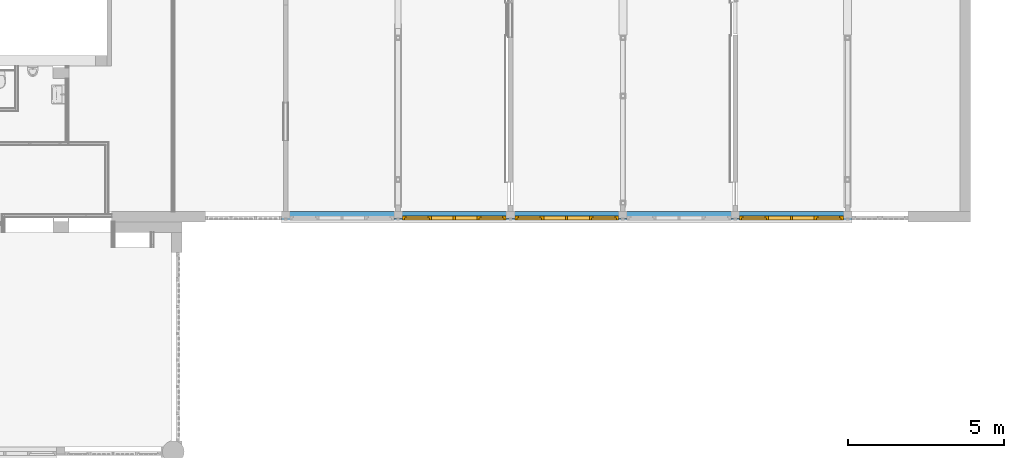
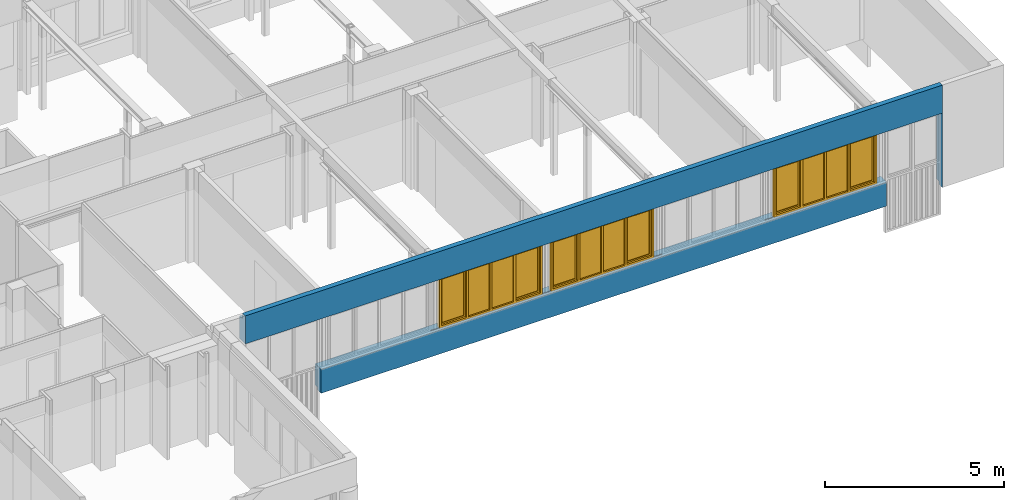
# One storey, part 33 of 99: 3 windows, 1 wall, 7 openings.
"""IFC2X3 building model written with IfcOpenShell, lengths in millimetres."""

from ifc_helpers import new_model, entity, si_unit, converted_unit, derived_unit, money_unit, direction, frame, origin_with_axes, place, context, subcontext, project, spatial, open_shell, faceted_brep, surface_model, source, transform, mapped, material, type_object, type_shapes, element, fill, save


model = new_model("IFC2X3")

# Units and contexts
model_context = context("Model", 3, precision=0.01, world=origin_with_axes(), true_north=direction((0.0, 1.0)))
body_context = subcontext(model_context, "Body", "Model", "MODEL_VIEW")
ifc_project = project(units=[si_unit("LENGTHUNIT", "METRE", prefix="MILLI"), si_unit("AREAUNIT", "SQUARE_METRE"), si_unit("VOLUMEUNIT", "CUBIC_METRE"), converted_unit("PLANEANGLEUNIT", "DEGREE", entity("IfcPlaneAngleMeasure", 0.0174532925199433), si_unit("PLANEANGLEUNIT", "RADIAN"), dimensions=[0, 0, 0, 0, 0, 0, 0]), money_unit("EUR"), converted_unit("TIMEUNIT", "Year", entity("IfcTimeMeasure", 31557600.0), si_unit("TIMEUNIT", "SECOND"), dimensions=[0, 0, 1, 0, 0, 0, 0]), si_unit("MASSUNIT", "GRAM", prefix="KILO"), si_unit("THERMODYNAMICTEMPERATUREUNIT", "DEGREE_CELSIUS"), si_unit("LUMINOUSINTENSITYUNIT", "LUMEN"), si_unit("ENERGYUNIT", "JOULE", prefix="MEGA"), derived_unit("THERMALCONDUCTANCEUNIT", [(si_unit("POWERUNIT", "WATT"), 1), (si_unit("LENGTHUNIT", "METRE"), -1), (si_unit("THERMODYNAMICTEMPERATUREUNIT", "KELVIN"), -1)]), derived_unit("SPECIFICHEATCAPACITYUNIT", [(si_unit("ENERGYUNIT", "JOULE"), 1), (si_unit("MASSUNIT", "GRAM", prefix="KILO"), -1), (si_unit("THERMODYNAMICTEMPERATUREUNIT", "KELVIN"), -1)]), derived_unit("MASSDENSITYUNIT", [(si_unit("MASSUNIT", "GRAM", prefix="KILO"), 1), (si_unit("VOLUMEUNIT", "CUBIC_METRE"), -1)])], contexts=[model_context])

# Site, building, storey
site_placement = place(None, origin_with_axes())
site = spatial("IfcSite", under=ifc_project, at=site_placement, Name="Site", CompositionType="ELEMENT")
building_placement = place(site_placement, origin_with_axes())
building = spatial("IfcBuilding", under=site, at=building_placement, Name="Naam gebouw", CompositionType="ELEMENT")
storey_placement = place(building_placement, frame((0.0, 0.0, 7650.0), z_axis=(0.0, 0.0, 1.0), x_axis=(1.0, 0.0, 0.0)))
storey = spatial("IfcBuildingStorey", under=building, at=storey_placement, Name="2e verdieping N", CompositionType="ELEMENT", Elevation=7650.0)

# Wall, openings, windows
ifc_material = material(Name="ALG - CONSTRUCTIEF")
wall_type = type_object("IfcWallType", Name="ALG - CONSTRUCTIEF 330", PredefinedType="NOTDEFINED")
wall_placement = place(storey_placement, frame((55938.1567191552, 10990.91242510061, -99.99999999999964), z_axis=(0.0, 0.0, 1.0), x_axis=(-1.0, 0.0, 0.0)))
wall = element("IfcWall", 1, at=wall_placement, inside=storey, type_object=wall_type, material=ifc_material, Name="_Wand-x", context=body_context, shape_type="Brep", body=[
    faceted_brep([(22515.6567191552, 0.0, 2540.000000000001), (22515.6567191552, 329.9999999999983, 2540.000000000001), (22515.6567191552, 329.9999999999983, 3500.0), (22515.6567191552, 168.1794439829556, 3500.0), (22515.6567191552, 168.1794439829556, 3299.999999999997), (22515.6567191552, 0.0, 3299.999999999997), (0.6567191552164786, 0.0, 2540.000000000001), (0.6567191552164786, 330.0000000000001, 2540.000000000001), (20075.65671915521, 329.9999999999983, 2540.000000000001), (2075.656719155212, 260.0000000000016, 2540.000000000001), (1800.656719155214, 259.9999999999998, 2540.000000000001), (1800.656719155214, 216.0000000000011, 2540.000000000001), (2075.656719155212, 216.0000000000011, 2540.000000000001), (9275.656719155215, 215.9999999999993, 2540.000000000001), (9275.656719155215, 259.9999999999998, 2540.000000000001), (9000.65671915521, 259.999999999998, 2540.000000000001), (9000.65671915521, 215.9999999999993, 2540.000000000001), (5675.656719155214, 216.0000000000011, 2540.000000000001), (5675.656719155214, 259.9999999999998, 2540.000000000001), (5400.656719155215, 259.9999999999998, 2540.000000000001), (5400.656719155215, 216.0000000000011, 2540.000000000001), (12875.6567191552, 259.9999999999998, 2540.000000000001), (12600.6567191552, 259.999999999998, 2540.000000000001), (12600.6567191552, 215.9999999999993, 2540.000000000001), (12875.6567191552, 215.9999999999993, 2540.000000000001), (16475.6567191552, 215.9999999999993, 2540.000000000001), (16475.6567191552, 259.9999999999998, 2540.000000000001), (16200.65671915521, 259.999999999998, 2540.000000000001), (16200.65671915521, 215.9999999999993, 2540.000000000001), (20075.65671915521, 259.9999999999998, 2540.000000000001), (19800.65671915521, 259.999999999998, 2540.000000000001), (19800.65671915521, 215.9999999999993, 2540.000000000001), (20075.65671915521, 215.9999999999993, 2540.000000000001), (0.6567191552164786, 330.0000000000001, 0.0), (0.0, 330.0000000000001, 0.0), (0.0, 330.0000000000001, 3500.0), (0.0, 168.1794439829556, 3500.0), (0.0, 168.1794439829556, 3299.999999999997), (0.0, 0.0, 3299.999999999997), (0.0, 0.0, 99.99999999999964), (0.6567191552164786, 0.0, 99.99999999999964), (0.6567191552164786, 146.0000000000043, 99.99999999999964), (0.6567191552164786, 146.0000000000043, 0.0), (0.0, 146.0000000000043, 0.0), (0.0, 146.0000000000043, 99.99999999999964)], [[[0, 1, 2, 3, 4, 5]], [[1, 0, 6, 7, 8], [9, 10, 11, 12], [13, 14, 15, 16], [17, 18, 19, 20], [21, 22, 23, 24], [25, 26, 27, 28], [29, 30, 31, 32]], [[1, 8, 7, 33, 34, 35, 2]], [[3, 2, 35, 36]], [[4, 3, 36, 37]], [[5, 4, 37, 38]], [[6, 0, 5, 38, 39, 40]], [[33, 7, 6, 40, 41, 42]], [[10, 9, 12, 11]], [[14, 13, 16, 15]], [[18, 17, 20, 19]], [[22, 21, 24, 23]], [[26, 25, 28, 27]], [[30, 29, 32, 31]], [[34, 33, 42, 43]], [[35, 34, 43, 44, 39, 38, 37, 36]], [[40, 39, 44, 41]], [[42, 41, 44, 43]]]),
    faceted_brep([(20075.65671915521, 259.9999999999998, 820.0000000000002), (19800.65671915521, 259.999999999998, 820.0000000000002), (19800.65671915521, 215.9999999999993, 820.0000000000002), (20075.65671915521, 215.9999999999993, 820.0000000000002), (20075.65671915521, 329.9999999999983, 820.0000000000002), (1800.656719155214, 330.0000000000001, 820.0000000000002), (1800.656719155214, 259.9999999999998, 820.0000000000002), (2075.656719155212, 260.0000000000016, 820.0000000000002), (2075.656719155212, 216.0000000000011, 820.0000000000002), (1800.656719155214, 216.0000000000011, 820.0000000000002), (1800.656719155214, 0.0, 820.0000000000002), (20075.65671915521, 0.0, 820.0000000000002), (20075.65671915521, 145.999999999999, 820.0000000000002), (9000.65671915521, 259.999999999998, 820.0000000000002), (9275.656719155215, 259.9999999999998, 820.0000000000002), (9275.656719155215, 215.9999999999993, 820.0000000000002), (9000.65671915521, 215.9999999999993, 820.0000000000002), (5400.656719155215, 259.9999999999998, 820.0000000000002), (5675.656719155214, 259.9999999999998, 820.0000000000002), (5675.656719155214, 216.0000000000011, 820.0000000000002), (5400.656719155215, 216.0000000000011, 820.0000000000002), (12600.6567191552, 259.999999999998, 820.0000000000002), (12875.6567191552, 259.9999999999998, 820.0000000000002), (12875.6567191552, 215.9999999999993, 820.0000000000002), (12600.6567191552, 215.9999999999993, 820.0000000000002), (16475.6567191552, 259.9999999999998, 820.0000000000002), (16475.6567191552, 215.9999999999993, 820.0000000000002), (16200.65671915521, 215.9999999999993, 820.0000000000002), (16200.65671915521, 259.999999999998, 820.0000000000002), (20075.65671915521, 146.0000000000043, 0.0), (20075.65671915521, 329.9999999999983, 0.0), (20075.65671915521, 146.0000000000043, 99.99999999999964), (1800.656719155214, 330.0000000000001, 0.0), (1800.656719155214, 146.0000000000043, 0.0), (1800.656719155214, 146.0000000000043, 99.99999999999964), (1800.656719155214, 0.0, 99.99999999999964), (20075.65671915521, 0.0, 99.99999999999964)], [[[0, 1, 2, 3]], [[0, 4, 5, 6, 7, 8, 9, 10, 11, 12, 3, 2, 1], [13, 14, 15, 16], [17, 18, 19, 20], [21, 22, 23, 24], [25, 26, 27, 28]], [[29, 30, 4, 0, 3, 12, 31]], [[4, 30, 32, 5]], [[6, 5, 32, 33, 34, 35, 10, 9]], [[7, 6, 9, 8]], [[36, 11, 10, 35]], [[31, 12, 11, 36]], [[14, 13, 16, 15]], [[18, 17, 20, 19]], [[22, 21, 24, 23]], [[26, 25, 28, 27]], [[30, 29, 33, 32]], [[29, 31, 34, 33]], [[31, 36, 35, 34]]]),
])
opening_1_placement = place(wall_placement, frame((3738.156719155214, 0.0, 820.0000000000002), z_axis=(0.0, 0.0, 1.0), x_axis=(1.0, 0.0, 0.0)))
opening_1 = element("IfcOpeningElement", 2, at=opening_1_placement, cuts=wall, Name="_Merk-052", context=body_context, shape_type="Brep", body=[
    faceted_brep([(-1937.5, 260.0000000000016, 0.0), (-1937.5, 260.0000000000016, 1720.000000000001), (-1937.5, 331.0000000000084, 1720.000000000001), (-1937.5, 331.0000000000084, 0.0), (-1937.5, -0.9999999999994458, 0.0), (-1937.5, -0.9999999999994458, 1720.000000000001), (1937.5, 259.9999999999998, 1720.000000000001), (1937.5, 331.0000000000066, 1720.000000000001), (1937.5, -1.000000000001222, 1720.000000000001), (1937.5, 331.0000000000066, 0.0), (1937.5, 259.9999999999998, 0.0), (1937.5, -1.000000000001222, 0.0)], [[[0, 1, 2, 3]], [[1, 0, 4, 5]], [[6, 7, 2, 1, 5, 8]], [[7, 9, 3, 2]], [[0, 3, 9, 10, 11, 4]], [[5, 4, 11, 8]], [[6, 10, 9, 7]], [[10, 6, 8, 11]]]),
])
opening_2_placement = place(wall_placement, frame((7338.156719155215, 0.0, 820.0000000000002), z_axis=(0.0, 0.0, 1.0), x_axis=(1.0, 0.0, 0.0)))
element("IfcOpeningElement", 3, at=opening_2_placement, cuts=wall, Name="_Merk-052", context=body_context, shape_type="Brep", body=[
    faceted_brep([(-1937.5, 259.9999999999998, 0.0), (-1937.5, 259.9999999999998, 1720.000000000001), (-1937.5, 331.0000000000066, 1720.000000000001), (-1937.5, 331.0000000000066, 0.0), (-1937.5, -1.000000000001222, 0.0), (-1937.5, -1.000000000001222, 1720.000000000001), (1937.5, 259.999999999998, 1720.000000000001), (1937.5, 331.0000000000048, 1720.000000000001), (1937.5, -1.000000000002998, 1720.000000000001), (1937.5, 331.0000000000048, 0.0), (1937.5, 259.999999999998, 0.0), (1937.5, -1.000000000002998, 0.0)], [[[0, 1, 2, 3]], [[1, 0, 4, 5]], [[6, 7, 2, 1, 5, 8]], [[7, 9, 3, 2]], [[0, 3, 9, 10, 11, 4]], [[5, 4, 11, 8]], [[6, 10, 9, 7]], [[10, 6, 8, 11]]]),
])
opening_3_placement = place(wall_placement, frame((10938.1567191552, 0.0, 820.0000000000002), z_axis=(0.0, 0.0, 1.0), x_axis=(1.0, 0.0, 0.0)))
opening_3 = element("IfcOpeningElement", 4, at=opening_3_placement, cuts=wall, Name="_Merk-052", context=body_context, shape_type="Brep", body=[
    faceted_brep([(-1937.5, 259.9999999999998, 0.0), (-1937.5, 259.9999999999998, 1720.000000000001), (-1937.5, 331.0000000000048, 1720.000000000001), (-1937.5, 331.0000000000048, 0.0), (-1937.5, -1.000000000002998, 0.0), (-1937.5, -1.000000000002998, 1720.000000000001), (1937.5, 259.999999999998, 1720.000000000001), (1937.5, 331.0000000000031, 1720.000000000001), (1937.5, -1.000000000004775, 1720.000000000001), (1937.5, 331.0000000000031, 0.0), (1937.5, 259.999999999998, 0.0), (1937.5, -1.000000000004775, 0.0)], [[[0, 1, 2, 3]], [[1, 0, 4, 5]], [[6, 7, 2, 1, 5, 8]], [[7, 9, 3, 2]], [[0, 3, 9, 10, 11, 4]], [[5, 4, 11, 8]], [[6, 10, 9, 7]], [[10, 6, 8, 11]]]),
])
opening_4_placement = place(wall_placement, frame((14538.1567191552, 0.0, 820.0000000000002), z_axis=(0.0, 0.0, 1.0), x_axis=(1.0, 0.0, 0.0)))
opening_4 = element("IfcOpeningElement", 5, at=opening_4_placement, cuts=wall, Name="_Merk-052", context=body_context, shape_type="Brep", body=[
    faceted_brep([(-1937.5, 259.9999999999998, 0.0), (-1937.5, 259.9999999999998, 1720.000000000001), (-1937.5, 331.0000000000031, 1720.000000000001), (-1937.5, 331.0000000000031, 0.0), (-1937.5, -1.000000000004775, 0.0), (-1937.5, -1.000000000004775, 1720.000000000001), (1937.5, 259.999999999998, 1720.000000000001), (1937.5, 331.0000000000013, 1720.000000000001), (1937.5, -1.000000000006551, 1720.000000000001), (1937.5, 331.0000000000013, 0.0), (1937.5, 259.999999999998, 0.0), (1937.5, -1.000000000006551, 0.0)], [[[0, 1, 2, 3]], [[1, 0, 4, 5]], [[6, 7, 2, 1, 5, 8]], [[7, 9, 3, 2]], [[0, 3, 9, 10, 11, 4]], [[5, 4, 11, 8]], [[6, 10, 9, 7]], [[10, 6, 8, 11]]]),
])
opening_5_placement = place(wall_placement, frame((18138.15671915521, 0.0, 820.0000000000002), z_axis=(0.0, 0.0, 1.0), x_axis=(1.0, 0.0, 0.0)))
element("IfcOpeningElement", 6, at=opening_5_placement, cuts=wall, Name="_Merk-052", context=body_context, shape_type="Brep", body=[
    faceted_brep([(-1937.5, 259.9999999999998, 0.0), (-1937.5, 259.9999999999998, 1720.000000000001), (-1937.5, 331.0000000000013, 1720.000000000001), (-1937.5, 331.0000000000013, 0.0), (-1937.5, -1.000000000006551, 0.0), (-1937.5, -1.000000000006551, 1720.000000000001), (1937.5, 259.999999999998, 1720.000000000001), (1937.5, 330.9999999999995, 1720.000000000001), (1937.5, -1.000000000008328, 1720.000000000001), (1937.5, 330.9999999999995, 0.0), (1937.5, 259.999999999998, 0.0), (1937.5, -1.000000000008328, 0.0)], [[[0, 1, 2, 3]], [[1, 0, 4, 5]], [[6, 7, 2, 1, 5, 8]], [[7, 9, 3, 2]], [[0, 3, 9, 10, 11, 4]], [[5, 4, 11, 8]], [[6, 10, 9, 7]], [[10, 6, 8, 11]]]),
])
opening_6_placement = place(wall_placement, frame((21295.6567191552, 0.0, -959.9999999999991), z_axis=(0.0, 0.0, 1.0), x_axis=(1.0, 0.0, 0.0)))
element("IfcOpeningElement", 7, at=opening_6_placement, cuts=wall, Name="_Merk-055", context=body_context, shape_type="Brep", body=[
    faceted_brep([(-1219.999999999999, 259.9999999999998, -1060.0), (-1219.999999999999, 259.9999999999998, 3500.0), (-1219.999999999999, 331.0000000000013, 3500.0), (-1219.999999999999, 331.0000000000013, -1060.0), (-1219.999999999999, -1.000000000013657, -1060.0), (-1219.999999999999, -1.000000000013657, 3500.0), (1219.999999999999, 259.999999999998, 3500.0), (1219.999999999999, 330.9999999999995, 3500.0), (1219.999999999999, -1.000000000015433, 3500.0), (1219.999999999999, 330.9999999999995, -1060.0), (1219.999999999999, 259.999999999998, -1060.0), (1219.999999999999, -1.000000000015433, -1060.0)], [[[0, 1, 2, 3]], [[1, 0, 4, 5]], [[6, 7, 2, 1, 5, 8]], [[7, 9, 3, 2]], [[0, 3, 9, 10, 11, 4]], [[5, 4, 11, 8]], [[6, 10, 9, 7]], [[10, 6, 8, 11]]]),
])
opening_7_placement = place(wall_placement, frame((900.6567191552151, 0.0, -960.0000000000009), z_axis=(0.0, 0.0, 1.0), x_axis=(1.0, 0.0, 0.0)))
element("IfcOpeningElement", 8, at=opening_7_placement, cuts=wall, Name="_Merk-051", context=body_context, shape_type="Brep", body=[
    faceted_brep([(-899.9999999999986, 260.0000000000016, -1060.0), (-899.9999999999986, 260.0000000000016, 3500.000000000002), (-899.9999999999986, 331.0000000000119, 3500.000000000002), (-899.9999999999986, 331.0000000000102, -1060.0), (-899.9999999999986, -0.9999999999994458, -1060.0), (-899.9999999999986, -0.9999999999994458, 3500.000000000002), (899.9999999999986, 259.9999999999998, 3500.000000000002), (899.9999999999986, 331.0000000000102, 3500.000000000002), (899.9999999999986, -1.000000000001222, 3500.000000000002), (899.9999999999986, 331.0000000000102, -1060.0), (899.9999999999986, 259.9999999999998, -1060.0), (899.9999999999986, -1.000000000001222, -1060.0)], [[[0, 1, 2, 3]], [[1, 0, 4, 5]], [[6, 7, 2, 1, 5, 8]], [[7, 9, 3, 2]], [[0, 3, 9, 10, 11, 4]], [[5, 4, 11, 8]], [[6, 10, 9, 7]], [[10, 6, 8, 11]]]),
])
window_style = type_object("IfcWindowStyle", Name="Rnx horizontaal 26", ConstructionType="NOTDEFINED", OperationType="USERDEFINED", ParameterTakesPrecedence=False, Sizeable=False)
shared_shape = source(origin_with_axes(), body_context, "Body", "SurfaceModel", [
    faceted_brep([(1612.5, 0.0, 1653.0), (1612.5, -54.0000000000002, 1653.0), (1595.5, -54.00000000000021, 1653.0), (1595.5, -114.0000000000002, 1653.0), (1662.5, -114.0000000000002, 1653.0), (1662.5, 0.0, 1653.0), (1612.5, 0.0, 66.99999999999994), (1612.5, -54.00000000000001, 66.99999999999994), (1595.5, -54.00000000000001, 66.99999999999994), (1595.5, -114.0, 66.99999999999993), (1662.5, -114.0, 66.99999999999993), (1662.5, 0.0, 66.99999999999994)], [[[0, 1, 2, 3, 4, 5]], [[1, 0, 6, 7]], [[8, 2, 1, 7]], [[2, 8, 9, 3]], [[4, 3, 9, 10]], [[5, 4, 10, 11]], [[6, 0, 5, 11]], [[7, 6, 11, 10, 9, 8]]]),
    faceted_brep([(-1595.5, -54.00000000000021, 1653.0), (-1612.5, -54.0000000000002, 1653.0), (-1612.5, 0.0, 1653.0), (-1662.5, 0.0, 1653.0), (-1662.5, -114.0000000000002, 1653.0), (-1595.5, -114.0000000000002, 1653.0), (-1595.5, -54.00000000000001, 66.99999999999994), (-1612.5, -54.00000000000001, 66.99999999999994), (-1612.5, 0.0, 66.99999999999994), (-1662.5, 0.0, 66.99999999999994), (-1662.5, -114.0, 66.99999999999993), (-1595.5, -114.0, 66.99999999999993)], [[[0, 1, 2, 3, 4, 5]], [[1, 0, 6, 7]], [[8, 2, 1, 7]], [[2, 8, 9, 3]], [[9, 10, 4, 3]], [[10, 11, 5, 4]], [[6, 0, 5, 11]], [[7, 6, 11, 10, 9, 8]]]),
    faceted_brep([(1612.5, 0.0, 1653.0), (1612.5, 0.0, 1670.0), (781.0000000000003, 0.0, 1670.0), (781.0000000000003, 0.0, 1653.0), (731.0000000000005, 0.0, 1653.0), (33.50000000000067, 0.0, 1653.0), (-33.49999999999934, 0.0, 1653.0), (-730.9999999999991, 0.0, 1653.0), (-780.999999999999, 0.0, 1653.0), (-780.999999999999, 0.0, 1670.0), (-1612.5, 0.0, 1670.0), (-1612.5, 0.0, 1653.0), (-1662.5, 0.0, 1653.0), (-1662.5, 0.0, 1720.0), (1662.5, 0.0, 1720.0), (1662.5, 0.0, 1653.0), (1612.5, -54.0000000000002, 1653.0), (1612.5, -54.0000000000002, 1670.0), (781.0000000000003, -54.0000000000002, 1670.0), (781.0000000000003, -54.0000000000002, 1653.0), (798.0000000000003, -54.00000000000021, 1653.0), (798.0000000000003, -114.0000000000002, 1653.0), (731.0000000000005, -114.0000000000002, 1653.0), (33.50000000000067, -114.0000000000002, 1653.0), (-33.49999999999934, -114.0000000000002, 1653.0), (-730.9999999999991, -114.0000000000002, 1653.0), (-780.999999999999, -54.0000000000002, 1653.0), (-797.9999999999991, -114.0000000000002, 1653.0), (-797.9999999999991, -54.00000000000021, 1653.0), (-780.999999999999, -54.0000000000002, 1670.0), (-1612.5, -54.0000000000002, 1670.0), (-1612.5, -54.0000000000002, 1653.0), (-1595.5, -54.00000000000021, 1653.0), (-1595.5, -114.0000000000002, 1653.0), (-1662.5, -114.0000000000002, 1653.0), (-1662.5, -114.0000000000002, 1720.0), (1662.5, -114.0000000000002, 1720.0), (1662.5, -114.0000000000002, 1653.0), (1595.5, -114.0000000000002, 1653.0), (1595.5, -54.00000000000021, 1653.0)], [[[0, 1, 2, 3, 4, 5, 6, 7, 8, 9, 10, 11, 12, 13, 14, 15]], [[1, 0, 16, 17]], [[2, 1, 17, 18]], [[3, 2, 18, 19]], [[19, 20, 21, 22, 4, 3]], [[4, 22, 23, 5]], [[5, 23, 24, 6]], [[6, 24, 25, 7]], [[26, 8, 7, 25, 27, 28]], [[9, 8, 26, 29]], [[10, 9, 29, 30]], [[11, 10, 30, 31]], [[31, 32, 33, 34, 12, 11]], [[12, 34, 35, 13]], [[13, 35, 36, 14]], [[14, 36, 37, 15]], [[16, 0, 15, 37, 38, 39]], [[20, 19, 18, 17, 16, 39]], [[20, 39, 38, 21]], [[34, 33, 27, 25, 24, 23, 22, 21, 38, 37, 36, 35]], [[32, 28, 27, 33]], [[32, 31, 30, 29, 26, 28]]]),
    faceted_brep([(798.0000000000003, -54.00000000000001, 66.99999999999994), (781.0000000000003, -54.00000000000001, 66.99999999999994), (781.0000000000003, 0.0, 66.99999999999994), (731.0000000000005, 0.0, 66.99999999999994), (731.0000000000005, -114.0, 66.99999999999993), (798.0000000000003, -114.0, 66.99999999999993), (1595.5, -54.00000000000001, 66.99999999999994), (1612.5, -54.00000000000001, 66.99999999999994), (1612.5, -54.00000000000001, 50.00000000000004), (781.0000000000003, -54.00000000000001, 50.00000000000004), (781.0000000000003, 0.0, 50.00000000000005), (1612.5, 0.0, 50.00000000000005), (1612.5, 0.0, 66.99999999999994), (1662.5, 0.0, 66.99999999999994), (1662.5, 0.0, 0.0), (-1662.5, 0.0, 0.0), (-1662.5, 0.0, 66.99999999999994), (-1612.5, 0.0, 66.99999999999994), (-1612.5, 0.0, 50.00000000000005), (-780.999999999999, 0.0, 50.00000000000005), (-780.999999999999, 0.0, 66.99999999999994), (-730.9999999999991, 0.0, 66.99999999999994), (-33.49999999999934, 0.0, 66.99999999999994), (33.50000000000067, 0.0, 66.99999999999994), (33.50000000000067, -114.0, 66.99999999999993), (-730.9999999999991, -114.0, 66.99999999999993), (-797.9999999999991, -114.0, 66.99999999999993), (-1595.5, -114.0, 66.99999999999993), (-1662.5, -114.0, 66.99999999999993), (-1662.5, -114.0, 0.0), (1662.5, -114.0, 0.0), (1662.5, -114.0, 66.99999999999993), (1595.5, -114.0, 66.99999999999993), (-33.49999999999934, -114.0, 66.99999999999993), (-1595.5, -54.00000000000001, 66.99999999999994), (-1612.5, -54.00000000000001, 66.99999999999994), (-1612.5, -54.00000000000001, 50.00000000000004), (-780.999999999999, -54.00000000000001, 50.00000000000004), (-780.999999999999, -54.00000000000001, 66.99999999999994), (-797.9999999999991, -54.00000000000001, 66.99999999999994)], [[[0, 1, 2, 3, 4, 5]], [[1, 0, 6, 7, 8, 9]], [[10, 2, 1, 9]], [[11, 12, 13, 14, 15, 16, 17, 18, 19, 20, 21, 22, 23, 3, 2, 10]], [[23, 24, 4, 3]], [[25, 26, 27, 28, 29, 30, 31, 32, 5, 4, 24, 33]], [[6, 0, 5, 32]], [[7, 6, 32, 31, 13, 12]], [[7, 12, 11, 8]], [[11, 10, 9, 8]], [[13, 31, 30, 14]], [[14, 30, 29, 15]], [[15, 29, 28, 16]], [[34, 35, 17, 16, 28, 27]], [[18, 17, 35, 36]], [[19, 18, 36, 37]], [[38, 20, 19, 37]], [[38, 39, 26, 25, 21, 20]], [[21, 25, 33, 22]], [[22, 33, 24, 23]], [[39, 34, 27, 26]], [[35, 34, 39, 38, 37, 36]]]),
    faceted_brep([(798.0000000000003, -54.00000000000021, 1653.0), (781.0000000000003, -54.0000000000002, 1653.0), (781.0000000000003, 0.0, 1653.0), (731.0000000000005, 0.0, 1653.0), (731.0000000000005, -114.0000000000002, 1653.0), (798.0000000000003, -114.0000000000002, 1653.0), (798.0000000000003, -54.00000000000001, 66.99999999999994), (781.0000000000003, -54.00000000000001, 66.99999999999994), (781.0000000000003, 0.0, 66.99999999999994), (731.0000000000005, 0.0, 66.99999999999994), (731.0000000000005, -114.0, 66.99999999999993), (798.0000000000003, -114.0, 66.99999999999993)], [[[0, 1, 2, 3, 4, 5]], [[1, 0, 6, 7]], [[8, 2, 1, 7]], [[2, 8, 9, 3]], [[9, 10, 4, 3]], [[4, 10, 11, 5]], [[6, 0, 5, 11]], [[7, 6, 11, 10, 9, 8]]]),
    faceted_brep([(-33.49999999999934, 0.0, 66.99999999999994), (-33.49999999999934, -114.0, 66.99999999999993), (-33.49999999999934, -114.0000000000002, 1653.0), (-33.49999999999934, 0.0, 1653.0), (33.50000000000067, 0.0, 66.99999999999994), (33.50000000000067, -114.0, 66.99999999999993), (33.50000000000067, -114.0000000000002, 1653.0), (33.50000000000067, 0.0, 1653.0)], [[[0, 1, 2, 3]], [[4, 5, 1, 0]], [[2, 1, 5, 6]], [[3, 2, 6, 7]], [[4, 0, 3, 7]], [[7, 6, 5, 4]]]),
    faceted_brep([(-780.999999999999, 0.0, 1653.0), (-780.999999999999, -54.0000000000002, 1653.0), (-797.9999999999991, -54.00000000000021, 1653.0), (-797.9999999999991, -114.0000000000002, 1653.0), (-730.9999999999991, -114.0000000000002, 1653.0), (-730.9999999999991, 0.0, 1653.0), (-780.999999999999, 0.0, 66.99999999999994), (-780.999999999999, -54.00000000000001, 66.99999999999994), (-797.9999999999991, -54.00000000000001, 66.99999999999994), (-797.9999999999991, -114.0, 66.99999999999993), (-730.9999999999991, -114.0, 66.99999999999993), (-730.9999999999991, 0.0, 66.99999999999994)], [[[0, 1, 2, 3, 4, 5]], [[1, 0, 6, 7]], [[8, 2, 1, 7]], [[2, 8, 9, 3]], [[3, 9, 10, 4]], [[5, 4, 10, 11]], [[6, 0, 5, 11]], [[7, 6, 11, 10, 9, 8]]]),
    faceted_brep([(1545.5, -54.00000000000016, 1603.0), (1612.5, -54.00000000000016, 1603.0), (1612.5, 0.0, 1603.0), (1545.5, 0.0, 1603.0), (1545.5, -53.99999999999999, 117.0), (1612.5, -53.99999999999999, 117.0), (1612.5, 0.0, 117.0), (1545.5, 0.0, 117.0)], [[[0, 1, 2, 3]], [[0, 4, 5, 1]], [[1, 5, 6, 2]], [[3, 2, 6, 7]], [[4, 0, 3, 7]], [[5, 4, 7, 6]]]),
    faceted_brep([(848.0000000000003, -54.00000000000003, 117.0), (781.0000000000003, -54.00000000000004, 117.0), (781.0000000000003, 0.0, 117.0), (848.0000000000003, 0.0, 117.0), (848.0000000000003, -54.00000000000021, 1603.0), (781.0000000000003, -54.00000000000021, 1603.0), (781.0000000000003, 0.0, 1603.0), (848.0000000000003, 0.0, 1603.0)], [[[0, 1, 2, 3]], [[0, 4, 5, 1]], [[1, 5, 6, 2]], [[3, 2, 6, 7]], [[4, 0, 3, 7]], [[5, 4, 7, 6]]]),
    faceted_brep([(781.0000000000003, -54.00000000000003, 50.00000000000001), (781.0000000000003, -54.00000000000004, 117.0), (781.0000000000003, 0.0, 117.0), (781.0000000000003, 0.0, 50.00000000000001), (1612.5, -53.99999999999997, 50.00000000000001), (1612.5, -53.99999999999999, 117.0), (1545.5, -53.99999999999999, 117.0), (848.0000000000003, -54.00000000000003, 117.0), (848.0000000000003, 0.0, 117.0), (1545.5, 0.0, 117.0), (1612.5, 0.0, 117.0), (1612.5, 0.0, 50.00000000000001)], [[[0, 1, 2, 3]], [[0, 4, 5, 6, 7, 1]], [[1, 7, 8, 2]], [[3, 2, 8, 9, 10, 11]], [[4, 0, 3, 11]], [[5, 4, 11, 10]], [[6, 5, 10, 9]], [[7, 6, 9, 8]]]),
    faceted_brep([(1612.5, -54.00000000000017, 1670.0), (1612.5, -54.00000000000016, 1603.0), (1612.5, 0.0, 1603.0), (1612.5, 0.0, 1670.0), (781.0000000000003, -54.00000000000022, 1670.0), (781.0000000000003, -54.00000000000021, 1603.0), (848.0000000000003, -54.00000000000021, 1603.0), (1545.5, -54.00000000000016, 1603.0), (1545.5, 0.0, 1603.0), (848.0000000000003, 0.0, 1603.0), (781.0000000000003, 0.0, 1603.0), (781.0000000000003, 0.0, 1670.0)], [[[0, 1, 2, 3]], [[0, 4, 5, 6, 7, 1]], [[1, 7, 8, 2]], [[3, 2, 8, 9, 10, 11]], [[4, 0, 3, 11]], [[5, 4, 11, 10]], [[6, 5, 10, 9]], [[7, 6, 9, 8]]]),
    surface_model("IfcShellBasedSurfaceModel", [(1545.5, -37.00000000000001, 117.0), (1545.5, -37.00000000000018, 1603.0), (848.0000000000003, -37.00000000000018, 1603.0), (848.0000000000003, -37.00000000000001, 117.0)], [open_shell([[[0, 1, 2, 3]]])]),
    surface_model("IfcShellBasedSurfaceModel", [(1545.5, -17.0, 117.0), (848.0000000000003, -17.0, 117.0), (848.0000000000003, -17.00000000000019, 1603.0), (1545.5, -17.00000000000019, 1603.0)], [open_shell([[[0, 1, 2, 3]]])]),
    surface_model("IfcShellBasedSurfaceModel", [(731.0000000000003, -64.0, 66.99999999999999), (731.0000000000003, -64.0000000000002, 1653.0), (33.50000000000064, -64.0000000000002, 1653.0), (33.50000000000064, -64.0, 66.99999999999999)], [open_shell([[[0, 1, 2, 3]]])]),
    surface_model("IfcShellBasedSurfaceModel", [(731.0000000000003, -44.0, 66.99999999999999), (33.50000000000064, -44.0, 66.99999999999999), (33.50000000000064, -44.00000000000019, 1653.0), (731.0000000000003, -44.00000000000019, 1653.0)], [open_shell([[[0, 1, 2, 3]]])]),
    surface_model("IfcShellBasedSurfaceModel", [(-33.49999999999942, -64.0, 66.99999999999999), (-33.49999999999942, -64.0000000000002, 1653.0), (-730.9999999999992, -64.0000000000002, 1653.0), (-730.9999999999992, -64.0, 66.99999999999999)], [open_shell([[[0, 1, 2, 3]]])]),
    surface_model("IfcShellBasedSurfaceModel", [(-33.49999999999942, -44.0, 66.99999999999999), (-730.9999999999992, -44.0, 66.99999999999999), (-730.9999999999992, -44.00000000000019, 1653.0), (-33.49999999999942, -44.00000000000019, 1653.0)], [open_shell([[[0, 1, 2, 3]]])]),
    faceted_brep([(-847.9999999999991, -54.00000000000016, 1603.0), (-780.999999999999, -54.00000000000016, 1603.0), (-780.999999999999, 0.0, 1603.0), (-847.9999999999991, 0.0, 1603.0), (-847.9999999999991, -53.99999999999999, 117.0), (-780.999999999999, -53.99999999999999, 117.0), (-780.999999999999, 0.0, 117.0), (-847.9999999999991, 0.0, 117.0)], [[[0, 1, 2, 3]], [[0, 4, 5, 1]], [[1, 5, 6, 2]], [[3, 2, 6, 7]], [[4, 0, 3, 7]], [[5, 4, 7, 6]]]),
    faceted_brep([(-1545.5, -54.00000000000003, 117.0), (-1612.5, -54.00000000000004, 117.0), (-1612.5, 0.0, 117.0), (-1545.5, 0.0, 117.0), (-1545.5, -54.00000000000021, 1603.0), (-1612.5, -54.00000000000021, 1603.0), (-1612.5, 0.0, 1603.0), (-1545.5, 0.0, 1603.0)], [[[0, 1, 2, 3]], [[0, 4, 5, 1]], [[1, 5, 6, 2]], [[3, 2, 6, 7]], [[4, 0, 3, 7]], [[5, 4, 7, 6]]]),
    faceted_brep([(-1612.5, -54.00000000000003, 50.00000000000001), (-1612.5, -54.00000000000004, 117.0), (-1612.5, 0.0, 117.0), (-1612.5, 0.0, 50.00000000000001), (-780.999999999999, -53.99999999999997, 50.00000000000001), (-780.999999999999, -53.99999999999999, 117.0), (-847.9999999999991, -53.99999999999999, 117.0), (-1545.5, -54.00000000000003, 117.0), (-1545.5, 0.0, 117.0), (-847.9999999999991, 0.0, 117.0), (-780.999999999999, 0.0, 117.0), (-780.999999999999, 0.0, 50.00000000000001)], [[[0, 1, 2, 3]], [[0, 4, 5, 6, 7, 1]], [[1, 7, 8, 2]], [[3, 2, 8, 9, 10, 11]], [[4, 0, 3, 11]], [[5, 4, 11, 10]], [[6, 5, 10, 9]], [[7, 6, 9, 8]]]),
    faceted_brep([(-780.999999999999, -54.00000000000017, 1670.0), (-780.999999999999, -54.00000000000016, 1603.0), (-780.999999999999, 0.0, 1603.0), (-780.999999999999, 0.0, 1670.0), (-1612.5, -54.00000000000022, 1670.0), (-1612.5, -54.00000000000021, 1603.0), (-1545.5, -54.00000000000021, 1603.0), (-847.9999999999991, -54.00000000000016, 1603.0), (-847.9999999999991, 0.0, 1603.0), (-1545.5, 0.0, 1603.0), (-1612.5, 0.0, 1603.0), (-1612.5, 0.0, 1670.0)], [[[0, 1, 2, 3]], [[0, 4, 5, 6, 7, 1]], [[1, 7, 8, 2]], [[3, 2, 8, 9, 10, 11]], [[4, 0, 3, 11]], [[5, 4, 11, 10]], [[6, 5, 10, 9]], [[7, 6, 9, 8]]]),
    surface_model("IfcShellBasedSurfaceModel", [(-847.9999999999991, -37.00000000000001, 117.0), (-847.9999999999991, -37.00000000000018, 1603.0), (-1545.5, -37.00000000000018, 1603.0), (-1545.5, -37.00000000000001, 117.0)], [open_shell([[[0, 1, 2, 3]]])]),
    surface_model("IfcShellBasedSurfaceModel", [(-847.9999999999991, -17.0, 117.0), (-1545.5, -17.0, 117.0), (-1545.5, -17.00000000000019, 1603.0), (-847.9999999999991, -17.00000000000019, 1603.0)], [open_shell([[[0, 1, 2, 3]]])]),
])
type_shapes(window_style, [shared_shape])
window_1_placement = place(opening_1_placement, frame((1662.500000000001, 0.0, 0.0), z_axis=(0.0, 0.0, 1.0), x_axis=(-1.0, 0.0, 0.0)))
window_1 = element("IfcWindow", 9, at=window_1_placement, inside=storey, type_object=window_style, Name="_Merk-052", ObjectType="WINDOW", OverallHeight=1720.0, OverallWidth=3325.0, context=body_context, shape_type="MappedRepresentation", body=[
    mapped(shared_shape, transform((1662.500000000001, -146.0000000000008, 0.0))),
])
fill(opening_1, window_1)
window_2_placement = place(opening_3_placement, frame((1662.500000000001, 0.0, 0.0), z_axis=(0.0, 0.0, 1.0), x_axis=(-1.0, 0.0, 0.0)))
window_2 = element("IfcWindow", 10, at=window_2_placement, inside=storey, type_object=window_style, Name="_Merk-052", ObjectType="WINDOW", OverallHeight=1720.0, OverallWidth=3325.0, context=body_context, shape_type="MappedRepresentation", body=[
    mapped(shared_shape, transform((1662.500000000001, -145.999999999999, 0.0))),
])
fill(opening_3, window_2)
window_3_placement = place(opening_4_placement, frame((1662.500000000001, 0.0, 0.0), z_axis=(0.0, 0.0, 1.0), x_axis=(-1.0, 0.0, 0.0)))
window_3 = element("IfcWindow", 11, at=window_3_placement, inside=storey, type_object=window_style, Name="_Merk-052", ObjectType="WINDOW", OverallHeight=1720.0, OverallWidth=3325.0, context=body_context, shape_type="MappedRepresentation", body=[
    mapped(shared_shape, transform((1662.500000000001, -145.999999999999, 0.0))),
])
fill(opening_4, window_3)

save(model, "model.ifc")
